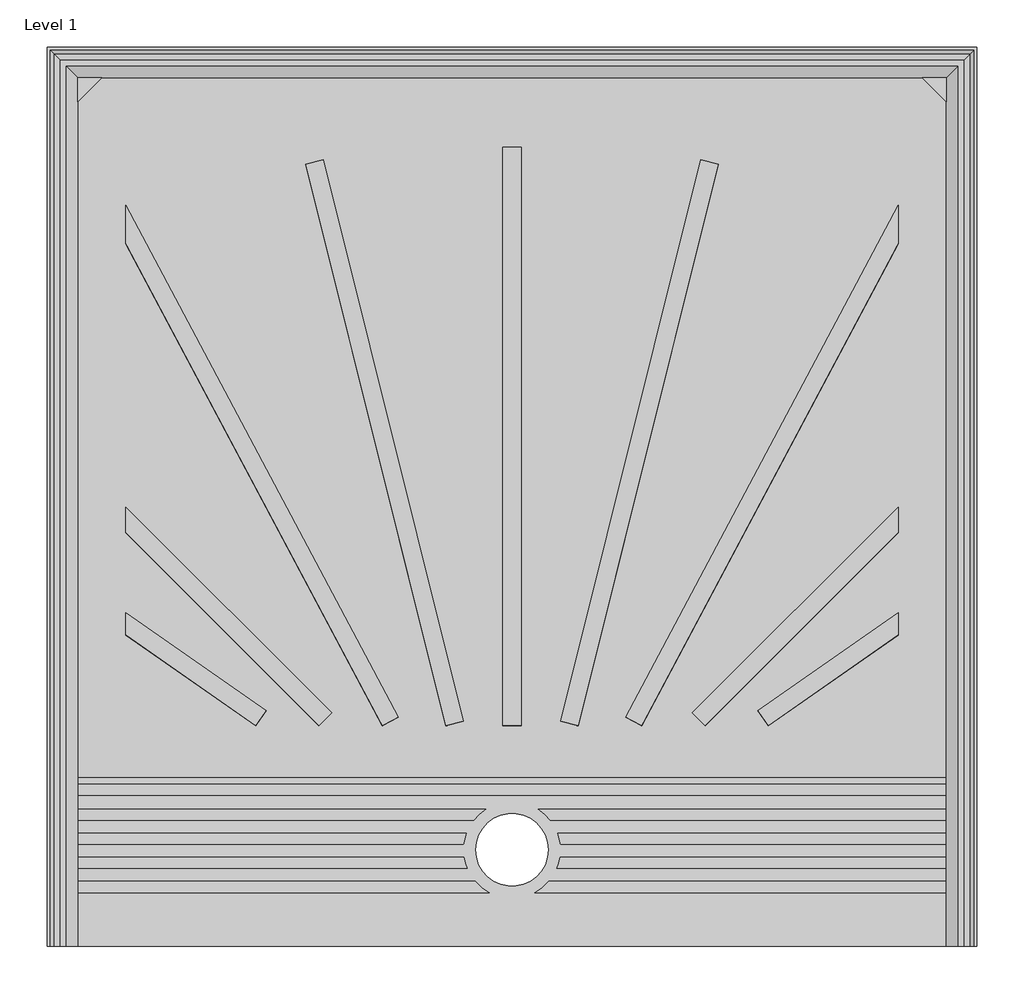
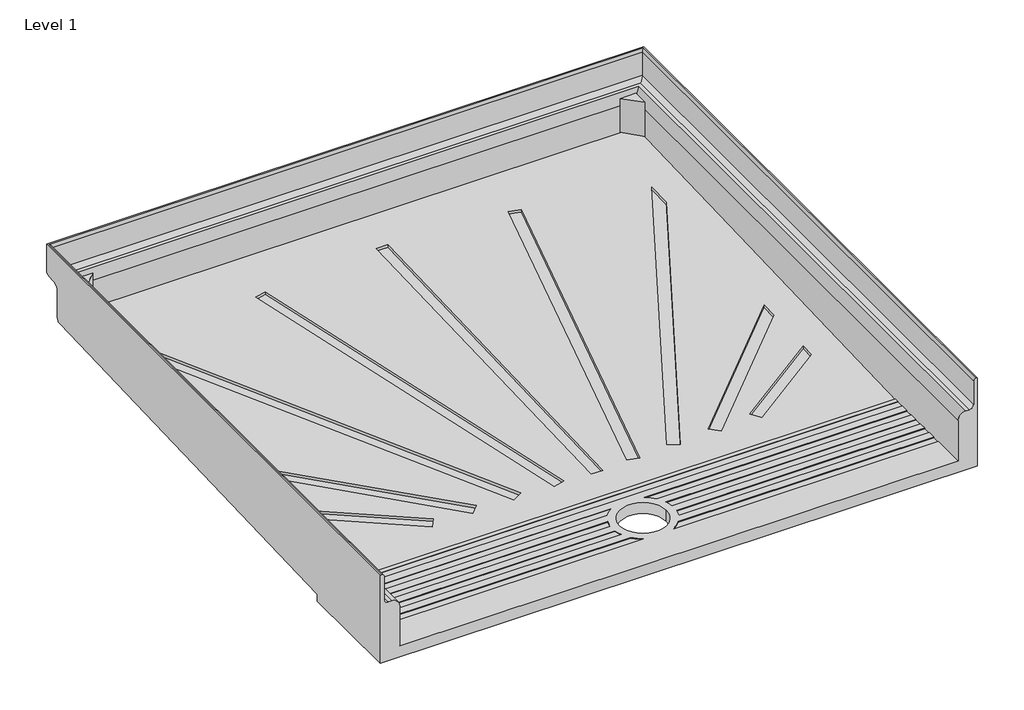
# One storey: 1 flow terminal.
"""IFC4 building model written with IfcOpenShell, lengths in millimetres."""

from ifc_helpers import new_model, si_unit, origin, place, context, project, spatial, transform, mapped, element, save
from components import cp3636td_cp3636td_7ec2a112

model = new_model("IFC4")

# Units and contexts
model_context = context("Model", 3, world=origin())
ifc_project = project(units=[si_unit("LENGTHUNIT", "METRE", prefix="MILLI")], contexts=[model_context])

# Site, building, storey
site = spatial("IfcSite", under=ifc_project)
building = spatial("IfcBuilding", under=site)
storey = spatial("IfcBuildingStorey", under=building, Name="Level 1", Elevation=0.0)

# Flow terminal
placement = place(None, origin())
cp3636td_cp3636td_shape = cp3636td_cp3636td_7ec2a112(model_context)
element("IfcFlowTerminal", 1, ObjectType="CP3636TD : CP3636TD", at=placement, inside=storey, context=model_context, shape_type="MappedRepresentation", body=[
    mapped(cp3636td_cp3636td_shape, transform((-4014.3799872, 3674.5117001, 0.0), x_axis=(1.0, 0.0, 0.0), y_axis=(0.0, 1.0, 0.0), z_axis=(0.0, 0.0, 1.0))),
])

save(model, "model.ifc")
